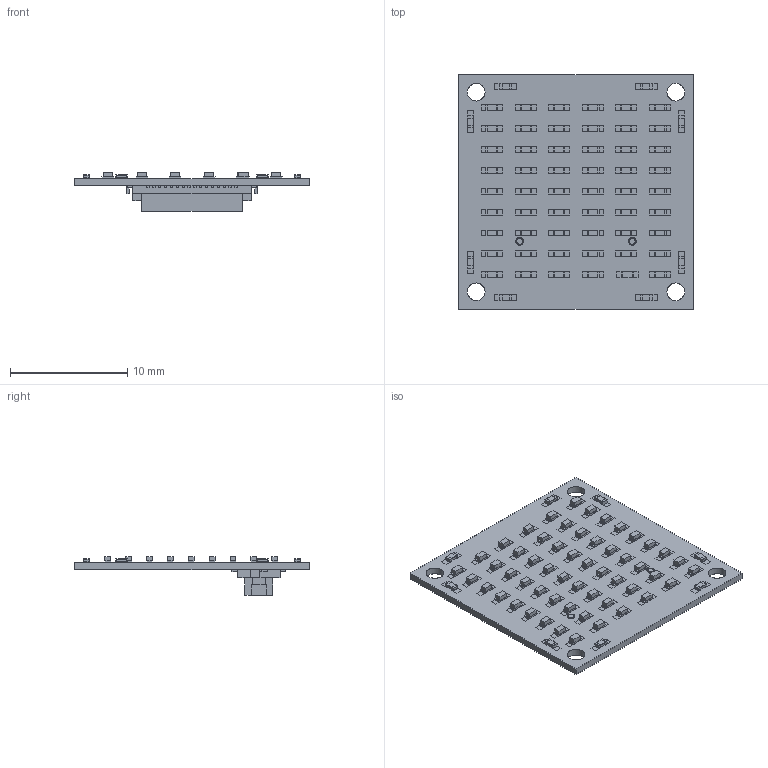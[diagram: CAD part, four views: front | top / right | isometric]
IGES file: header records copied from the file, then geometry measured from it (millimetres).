
Global section: file name: Filename.iges; native system: Open CASCADE 7.4; preprocessor: Open CASCADE IGES processor 7.4; date: 20200715.174541; units: millimetre
Bounding box: 20 x 20 x 3.3 mm (x, y, z)
Surface area: 1578.9 mm2 (no closed solid volume)
Topology: 0 solids, 0 shells, 4522 faces, 18414 edges, 18397 vertices
Faces by surface type: plane 4514, revolution 8
